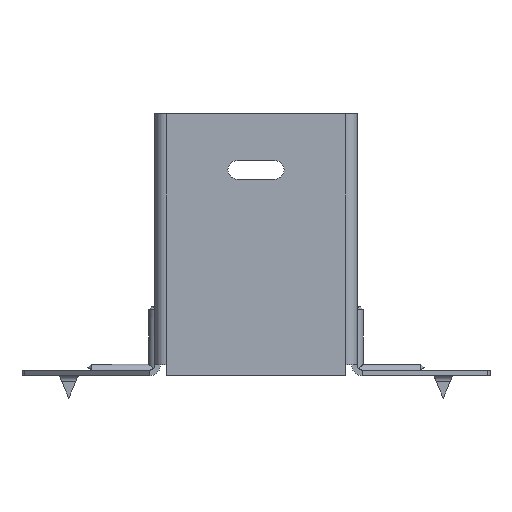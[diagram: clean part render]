
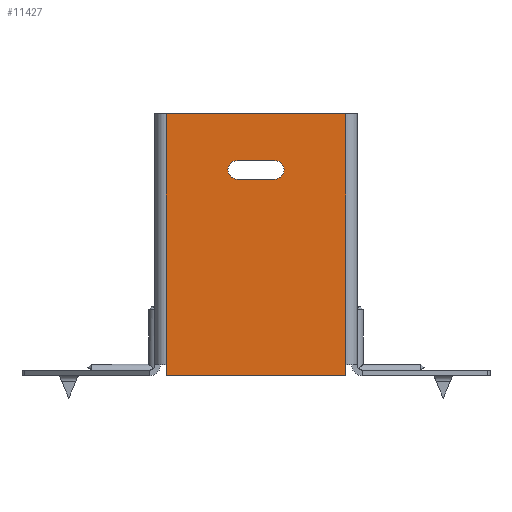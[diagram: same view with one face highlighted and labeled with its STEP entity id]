
A CAD part, front view. The second image highlights one B-rep face of the part: STEP entity #11427.
In plain terms, the highlighted planar face has unit normal (0, -1, 0).
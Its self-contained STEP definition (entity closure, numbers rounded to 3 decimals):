
#108 = EDGE_CURVE ( 'NONE', #9865, #13909, #9647, .T. ) ;
#111 = ORIENTED_EDGE ( 'NONE', *, *, #9284, .T. ) ;
#224 = AXIS2_PLACEMENT_3D ( 'NONE', #10430, #12864, #15330 ) ;
#260 = CARTESIAN_POINT ( 'NONE',  ( -5., 0., -17.5 ) ) ;
#375 = VECTOR ( 'NONE', #4982, 1000. ) ;
#547 = DIRECTION ( 'NONE',  ( 0., 1., 0. ) ) ;
#555 = LINE ( 'NONE', #2081, #14979 ) ;
#826 = ORIENTED_EDGE ( 'NONE', *, *, #11747, .T. ) ;
#974 = CARTESIAN_POINT ( 'NONE',  ( 5., 0., -17.5 ) ) ;
#1110 = VECTOR ( 'NONE', #11123, 1000. ) ;
#1194 = VECTOR ( 'NONE', #6148, 1000. ) ;
#1390 = ORIENTED_EDGE ( 'NONE', *, *, #6796, .T. ) ;
#1581 = LINE ( 'NONE', #10133, #9650 ) ;
#1639 = DIRECTION ( 'NONE',  ( 0., 0., -1. ) ) ;
#2081 = CARTESIAN_POINT ( 'NONE',  ( -25.5, 0., 0. ) ) ;
#2366 = VECTOR ( 'NONE', #11890, 1000. ) ;
#2469 = CARTESIAN_POINT ( 'NONE',  ( -5., 0., -12.5 ) ) ;
#2536 = DIRECTION ( 'NONE',  ( -1., 0., 0. ) ) ;
#2694 = EDGE_CURVE ( 'NONE', #9890, #3305, #555, .T. ) ;
#3305 = VERTEX_POINT ( 'NONE', #8807 ) ;
#3335 = EDGE_CURVE ( 'NONE', #9865, #14778, #8629, .T. ) ;
#3998 = AXIS2_PLACEMENT_3D ( 'NONE', #15257, #8096, #9165 ) ;
#4394 = DIRECTION ( 'NONE',  ( 1., 0., 0. ) ) ;
#4446 = VERTEX_POINT ( 'NONE', #974 ) ;
#4525 = EDGE_LOOP ( 'NONE', ( #7375, #1390, #13603, #11587 ) ) ;
#4903 = EDGE_CURVE ( 'NONE', #4446, #13131, #6120, .T. ) ;
#4965 = CARTESIAN_POINT ( 'NONE',  ( 24., 0., -70. ) ) ;
#4982 = DIRECTION ( 'NONE',  ( 1., 0., 0. ) ) ;
#5046 = VECTOR ( 'NONE', #1639, 1000. ) ;
#6120 = LINE ( 'NONE', #260, #15743 ) ;
#6148 = DIRECTION ( 'NONE',  ( 0., 0., 1. ) ) ;
#6157 = LINE ( 'NONE', #2469, #375 ) ;
#6303 = CARTESIAN_POINT ( 'NONE',  ( -24., 0., -67. ) ) ;
#6796 = EDGE_CURVE ( 'NONE', #13131, #15927, #11082, .T. ) ;
#7031 = CARTESIAN_POINT ( 'NONE',  ( 5., 0., -12.5 ) ) ;
#7375 = ORIENTED_EDGE ( 'NONE', *, *, #4903, .T. ) ;
#7962 = PLANE ( 'NONE',  #8151 ) ;
#8001 = CARTESIAN_POINT ( 'NONE',  ( 24., 0., -70. ) ) ;
#8096 = DIRECTION ( 'NONE',  ( 0., 1., 0. ) ) ;
#8111 = CARTESIAN_POINT ( 'NONE',  ( -24., 0., 0. ) ) ;
#8113 = LINE ( 'NONE', #10645, #2366 ) ;
#8151 = AXIS2_PLACEMENT_3D ( 'NONE', #10581, #547, #9186 ) ;
#8629 = LINE ( 'NONE', #14847, #1110 ) ;
#8807 = CARTESIAN_POINT ( 'NONE',  ( 24., 0., 0. ) ) ;
#9165 = DIRECTION ( 'NONE',  ( 0., 0., 1. ) ) ;
#9186 = DIRECTION ( 'NONE',  ( 0., 0., 1. ) ) ;
#9284 = EDGE_CURVE ( 'NONE', #12721, #14778, #12545, .T. ) ;
#9647 = LINE ( 'NONE', #4965, #1194 ) ;
#9650 = VECTOR ( 'NONE', #14846, 1000. ) ;
#9865 = VERTEX_POINT ( 'NONE', #8001 ) ;
#9890 = VERTEX_POINT ( 'NONE', #8111 ) ;
#10067 = ORIENTED_EDGE ( 'NONE', *, *, #108, .T. ) ;
#10133 = CARTESIAN_POINT ( 'NONE',  ( -24., 0., 0. ) ) ;
#10268 = CARTESIAN_POINT ( 'NONE',  ( -24., 0., 0. ) ) ;
#10430 = CARTESIAN_POINT ( 'NONE',  ( 5., 0., -15. ) ) ;
#10440 = EDGE_CURVE ( 'NONE', #15927, #12052, #6157, .T. ) ;
#10581 = CARTESIAN_POINT ( 'NONE',  ( 0., 0., 0. ) ) ;
#10645 = CARTESIAN_POINT ( 'NONE',  ( 24., 0., -70. ) ) ;
#11025 = CARTESIAN_POINT ( 'NONE',  ( -5., 0., -12.5 ) ) ;
#11082 = CIRCLE ( 'NONE', #3998, 2.5 ) ;
#11123 = DIRECTION ( 'NONE',  ( -1., 0., 0. ) ) ;
#11197 = CIRCLE ( 'NONE', #224, 2.5 ) ;
#11427 = ADVANCED_FACE ( 'NONE', ( #11539, #14631 ), #7962, .F. ) ;
#11452 = EDGE_CURVE ( 'NONE', #12052, #4446, #11197, .T. ) ;
#11539 = FACE_BOUND ( 'NONE', #4525, .T. ) ;
#11587 = ORIENTED_EDGE ( 'NONE', *, *, #11452, .T. ) ;
#11612 = EDGE_CURVE ( 'NONE', #13909, #3305, #8113, .T. ) ;
#11747 = EDGE_CURVE ( 'NONE', #9890, #12721, #1581, .T. ) ;
#11890 = DIRECTION ( 'NONE',  ( 0., 0., 1. ) ) ;
#12052 = VERTEX_POINT ( 'NONE', #7031 ) ;
#12329 = CARTESIAN_POINT ( 'NONE',  ( -5., 0., -17.5 ) ) ;
#12545 = LINE ( 'NONE', #10268, #5046 ) ;
#12721 = VERTEX_POINT ( 'NONE', #6303 ) ;
#12864 = DIRECTION ( 'NONE',  ( 0., 1., 0. ) ) ;
#13131 = VERTEX_POINT ( 'NONE', #12329 ) ;
#13603 = ORIENTED_EDGE ( 'NONE', *, *, #10440, .T. ) ;
#13688 = ORIENTED_EDGE ( 'NONE', *, *, #2694, .F. ) ;
#13728 = EDGE_LOOP ( 'NONE', ( #826, #111, #14682, #10067, #14111, #13688 ) ) ;
#13909 = VERTEX_POINT ( 'NONE', #15402 ) ;
#14111 = ORIENTED_EDGE ( 'NONE', *, *, #11612, .T. ) ;
#14631 = FACE_OUTER_BOUND ( 'NONE', #13728, .T. ) ;
#14682 = ORIENTED_EDGE ( 'NONE', *, *, #3335, .F. ) ;
#14778 = VERTEX_POINT ( 'NONE', #15050 ) ;
#14846 = DIRECTION ( 'NONE',  ( 0., 0., -1. ) ) ;
#14847 = CARTESIAN_POINT ( 'NONE',  ( -25.5, 0., -70. ) ) ;
#14979 = VECTOR ( 'NONE', #4394, 1000. ) ;
#15050 = CARTESIAN_POINT ( 'NONE',  ( -24., 0., -70. ) ) ;
#15257 = CARTESIAN_POINT ( 'NONE',  ( -5., 0., -15. ) ) ;
#15330 = DIRECTION ( 'NONE',  ( 0., 0., 1. ) ) ;
#15402 = CARTESIAN_POINT ( 'NONE',  ( 24., 0., -67. ) ) ;
#15743 = VECTOR ( 'NONE', #2536, 1000. ) ;
#15927 = VERTEX_POINT ( 'NONE', #11025 ) ;
